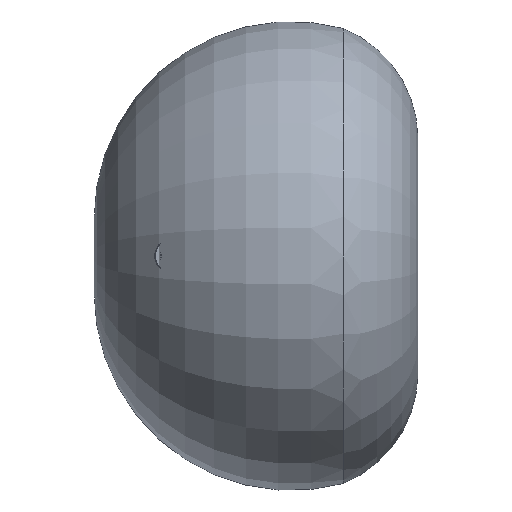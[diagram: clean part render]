
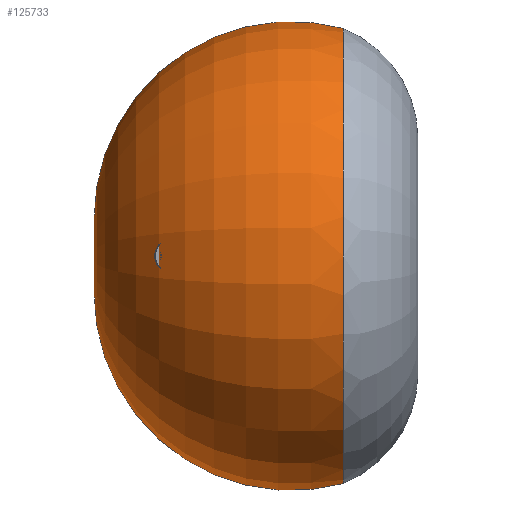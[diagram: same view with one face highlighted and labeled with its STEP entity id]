
A CAD part, left-side view. The second image highlights one B-rep face of the part: STEP entity #125733.
In plain terms, the highlighted toroidal (fillet/blend) face has major radius 350 mm and minor radius 1854.98 mm.
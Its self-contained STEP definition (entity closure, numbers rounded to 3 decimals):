
#6010 = DIRECTION ( 'NONE',  ( 0., 0., -1. ) ) ;
#6014 = DIRECTION ( 'NONE',  ( 0., -1., 0. ) ) ;
#6018 = CARTESIAN_POINT ( 'NONE',  ( 0., 340.208, 0. ) ) ;
#6020 = AXIS2_PLACEMENT_3D ( 'NONE', #6018, #6014, #6010 ) ;
#6024 = CIRCLE ( 'NONE', #6020, 2139.15 ) ;
#125571 = VERTEX_POINT ( 'NONE', #162882 ) ;
#125621 = VERTEX_POINT ( 'NONE', #163094 ) ;
#125622 = VERTEX_POINT ( 'NONE', #163090 ) ;
#125626 = EDGE_CURVE ( 'NONE', #125622, #125667, #163082, .T. ) ;
#125636 = EDGE_CURVE ( 'NONE', #125621, #125571, #163243, .T. ) ;
#125667 = VERTEX_POINT ( 'NONE', #163333 ) ;
#125730 = EDGE_CURVE ( 'NONE', #125622, #125621, #163413, .T. ) ;
#125733 = ADVANCED_FACE ( 'NONE', ( #163406 ), #163523, .T. ) ;
#125735 = EDGE_LOOP ( 'NONE', ( #125742, #125746, #125747, #126981 ) ) ;
#125742 = ORIENTED_EDGE ( 'NONE', *, *, #125626, .F. ) ;
#125746 = ORIENTED_EDGE ( 'NONE', *, *, #125730, .T. ) ;
#125747 = ORIENTED_EDGE ( 'NONE', *, *, #125636, .T. ) ;
#126981 = ORIENTED_EDGE ( 'NONE', *, *, #126984, .F. ) ;
#126984 = EDGE_CURVE ( 'NONE', #125667, #125571, #6024, .T. ) ;
#162882 = CARTESIAN_POINT ( 'NONE',  ( 0., 340.208, -2139.15 ) ) ;
#163072 = DIRECTION ( 'NONE',  ( 0., 0., -1. ) ) ;
#163075 = DIRECTION ( 'NONE',  ( 1., 0., 0. ) ) ;
#163078 = CARTESIAN_POINT ( 'NONE',  ( 0., 830., 350. ) ) ;
#163079 = AXIS2_PLACEMENT_3D ( 'NONE', #163078, #163075, #163072 ) ;
#163082 = CIRCLE ( 'NONE', #163079, 1854.981 ) ;
#163090 = CARTESIAN_POINT ( 'NONE',  ( 0., 2658.516, 37.775 ) ) ;
#163094 = CARTESIAN_POINT ( 'NONE',  ( 0., 2658.516, -37.775 ) ) ;
#163233 = DIRECTION ( 'NONE',  ( 0., 0., 1. ) ) ;
#163236 = DIRECTION ( 'NONE',  ( -1., 0., 0. ) ) ;
#163238 = CARTESIAN_POINT ( 'NONE',  ( 0., 830., -350. ) ) ;
#163240 = AXIS2_PLACEMENT_3D ( 'NONE', #163238, #163236, #163233 ) ;
#163243 = CIRCLE ( 'NONE', #163240, 1854.981 ) ;
#163333 = CARTESIAN_POINT ( 'NONE',  ( 0., 340.208, 2139.15 ) ) ;
#163403 = CARTESIAN_POINT ( 'NONE',  ( 0., 830., 0. ) ) ;
#163406 = FACE_OUTER_BOUND ( 'NONE', #125735, .T. ) ;
#163408 = DIRECTION ( 'NONE',  ( 0., 0., -1. ) ) ;
#163409 = DIRECTION ( 'NONE',  ( 0., -1., 0. ) ) ;
#163410 = CARTESIAN_POINT ( 'NONE',  ( 0., 2658.516, 0. ) ) ;
#163412 = AXIS2_PLACEMENT_3D ( 'NONE', #163410, #163409, #163408 ) ;
#163413 = CIRCLE ( 'NONE', #163412, 37.775 ) ;
#163518 = DIRECTION ( 'NONE',  ( 0., 0., -1. ) ) ;
#163520 = DIRECTION ( 'NONE',  ( 0., -1., 0. ) ) ;
#163522 = AXIS2_PLACEMENT_3D ( 'NONE', #163403, #163520, #163518 ) ;
#163523 = TOROIDAL_SURFACE ( 'NONE', #163522, 350., 1854.981 ) ;
